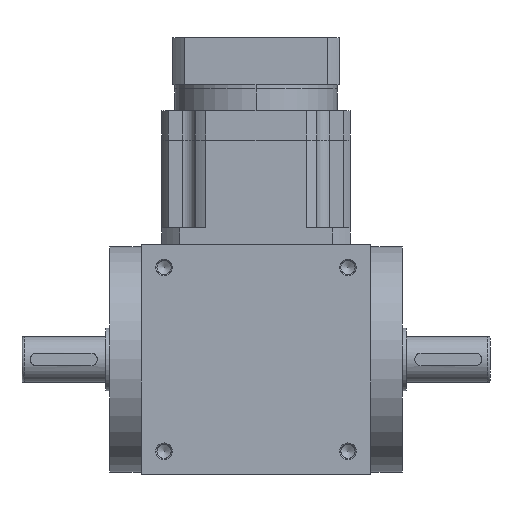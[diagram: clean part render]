
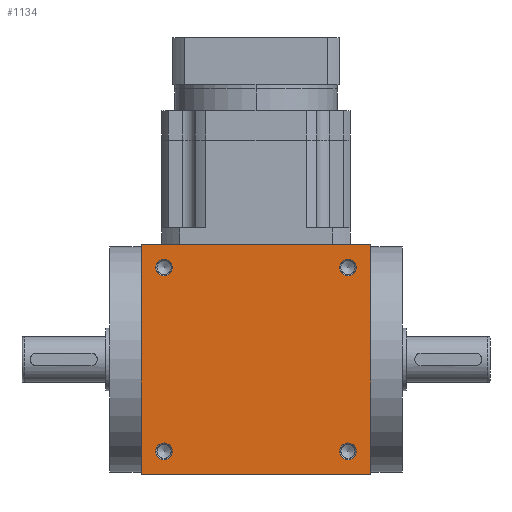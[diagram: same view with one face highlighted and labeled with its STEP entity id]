
A CAD part, left-side view. The second image highlights one B-rep face of the part: STEP entity #1134.
In plain terms, the highlighted planar face has unit normal (-1, 0, 0).
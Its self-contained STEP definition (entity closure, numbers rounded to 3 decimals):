
#337=PLANE('',#8086);
#716=FACE_BOUND('',#2157,.T.);
#717=FACE_BOUND('',#2158,.T.);
#718=FACE_BOUND('',#2159,.T.);
#719=FACE_BOUND('',#2160,.T.);
#720=FACE_BOUND('',#2161,.T.);
#1134=ADVANCED_FACE('',(#716,#717,#718,#719,#720),#337,.T.);
#2157=EDGE_LOOP('',(#4734));
#2158=EDGE_LOOP('',(#4735));
#2159=EDGE_LOOP('',(#4736));
#2160=EDGE_LOOP('',(#4737));
#2161=EDGE_LOOP('',(#4738,#4739,#4740,#4741));
#2654=LINE('',#11764,#3185);
#2659=LINE('',#12065,#3190);
#2660=LINE('',#12093,#3191);
#2662=LINE('',#12096,#3193);
#3185=VECTOR('',#9488,1.);
#3190=VECTOR('',#9857,1.);
#3191=VECTOR('',#9894,1.);
#3193=VECTOR('',#9898,1.);
#4734=ORIENTED_EDGE('',*,*,#6721,.T.);
#4735=ORIENTED_EDGE('',*,*,#6720,.T.);
#4736=ORIENTED_EDGE('',*,*,#6719,.T.);
#4737=ORIENTED_EDGE('',*,*,#6718,.T.);
#4738=ORIENTED_EDGE('',*,*,#6742,.T.);
#4739=ORIENTED_EDGE('',*,*,#6730,.T.);
#4740=ORIENTED_EDGE('',*,*,#6740,.F.);
#4741=ORIENTED_EDGE('',*,*,#6612,.T.);
#5740=VERTEX_POINT('',#11763);
#5741=VERTEX_POINT('',#11765);
#5842=VERTEX_POINT('',#12033);
#5843=VERTEX_POINT('',#12036);
#5844=VERTEX_POINT('',#12039);
#5845=VERTEX_POINT('',#12042);
#5852=VERTEX_POINT('',#12060);
#5854=VERTEX_POINT('',#12064);
#6612=EDGE_CURVE('',#5741,#5740,#2654,.T.);
#6718=EDGE_CURVE('',#5842,#5842,#7352,.T.);
#6719=EDGE_CURVE('',#5843,#5843,#7353,.T.);
#6720=EDGE_CURVE('',#5844,#5844,#7354,.T.);
#6721=EDGE_CURVE('',#5845,#5845,#7355,.T.);
#6730=EDGE_CURVE('',#5852,#5854,#2659,.T.);
#6740=EDGE_CURVE('',#5741,#5854,#2660,.T.);
#6742=EDGE_CURVE('',#5740,#5852,#2662,.T.);
#7352=CIRCLE('',#8050,4.);
#7353=CIRCLE('',#8052,4.);
#7354=CIRCLE('',#8054,4.);
#7355=CIRCLE('',#8056,4.);
#8050=AXIS2_PLACEMENT_3D('',#12032,#9820,#9821);
#8052=AXIS2_PLACEMENT_3D('',#12035,#9824,#9825);
#8054=AXIS2_PLACEMENT_3D('',#12038,#9828,#9829);
#8056=AXIS2_PLACEMENT_3D('',#12041,#9832,#9833);
#8086=AXIS2_PLACEMENT_3D('',#12097,#9899,#9900);
#9488=DIRECTION('',(0.,-1.,0.));
#9820=DIRECTION('',(1.,0.,0.));
#9821=DIRECTION('',(0.,0.,1.));
#9824=DIRECTION('',(1.,0.,0.));
#9825=DIRECTION('',(0.,0.,1.));
#9828=DIRECTION('',(1.,0.,0.));
#9829=DIRECTION('',(0.,0.,1.));
#9832=DIRECTION('',(1.,0.,0.));
#9833=DIRECTION('',(0.,0.,1.));
#9857=DIRECTION('',(0.,1.,0.));
#9894=DIRECTION('',(0.,0.,1.));
#9898=DIRECTION('',(0.,0.,1.));
#9899=DIRECTION('',(-1.,0.,0.));
#9900=DIRECTION('',(0.,0.,1.));
#11763=CARTESIAN_POINT('',(0.,0.,0.));
#11764=CARTESIAN_POINT('',(0.,55.,0.));
#11765=CARTESIAN_POINT('',(0.,110.,0.));
#12032=CARTESIAN_POINT('',(0.,11.,11.));
#12033=CARTESIAN_POINT('',(0.,11.,15.));
#12035=CARTESIAN_POINT('',(0.,11.,99.));
#12036=CARTESIAN_POINT('',(0.,11.,103.));
#12038=CARTESIAN_POINT('',(0.,99.,11.));
#12039=CARTESIAN_POINT('',(0.,99.,15.));
#12041=CARTESIAN_POINT('',(0.,99.,99.));
#12042=CARTESIAN_POINT('',(0.,99.,103.));
#12060=CARTESIAN_POINT('',(0.,0.,110.));
#12064=CARTESIAN_POINT('',(0.,110.,110.));
#12065=CARTESIAN_POINT('',(0.,55.,110.));
#12093=CARTESIAN_POINT('',(0.,110.,0.));
#12096=CARTESIAN_POINT('',(0.,0.,0.));
#12097=CARTESIAN_POINT('',(0.,55.,0.));
